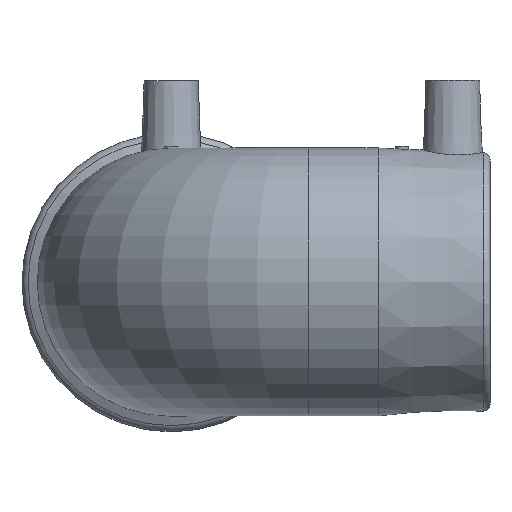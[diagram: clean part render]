
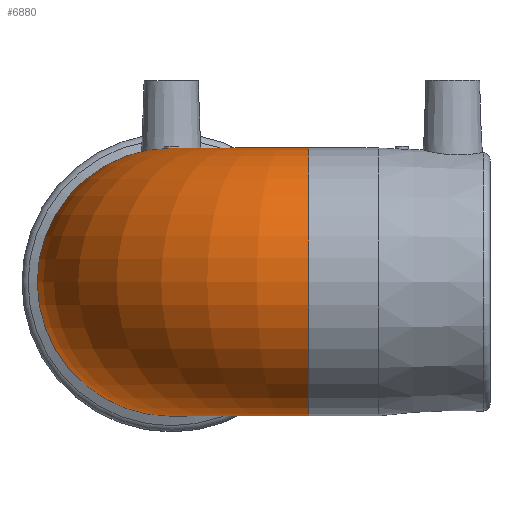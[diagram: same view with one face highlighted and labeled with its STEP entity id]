
A CAD part, top view. The second image highlights one B-rep face of the part: STEP entity #6880.
In plain terms, the highlighted toroidal (fillet/blend) face has major radius 40.5 mm and minor radius 39.5 mm.
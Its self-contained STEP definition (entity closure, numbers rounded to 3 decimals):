
#459=TOROIDAL_SURFACE('',#8689,40.5,39.5);
#815=CIRCLE('',#8678,39.5);
#818=CIRCLE('',#8683,39.5);
#1153=ORIENTED_EDGE('',*,*,#3365,.F.);
#1154=ORIENTED_EDGE('',*,*,#3368,.T.);
#3365=EDGE_CURVE('',#4478,#4478,#815,.F.);
#3368=EDGE_CURVE('',#4481,#4481,#818,.F.);
#4478=VERTEX_POINT('',#11258);
#4481=VERTEX_POINT('',#11266);
#5768=EDGE_LOOP('',(#1153));
#5769=EDGE_LOOP('',(#1154));
#6277=FACE_BOUND('',#5768,.T.);
#6278=FACE_BOUND('',#5769,.T.);
#6880=ADVANCED_FACE('',(#6277,#6278),#459,.T.);
#8678=AXIS2_PLACEMENT_3D('',#11257,#9468,#9469);
#8683=AXIS2_PLACEMENT_3D('',#11265,#9478,#9479);
#8689=AXIS2_PLACEMENT_3D('',#11298,#9490,#9491);
#9468=DIRECTION('',(-1.,0.,0.));
#9469=DIRECTION('',(0.,0.,-1.));
#9478=DIRECTION('',(0.,0.,-1.));
#9479=DIRECTION('',(1.,0.,0.));
#9490=DIRECTION('',(0.,1.,0.));
#9491=DIRECTION('',(0.,0.,1.));
#11257=CARTESIAN_POINT('',(40.5,0.,94.));
#11258=CARTESIAN_POINT('',(40.5,0.,54.5));
#11265=CARTESIAN_POINT('',(0.,0.,53.5));
#11266=CARTESIAN_POINT('',(39.5,0.,53.5));
#11298=CARTESIAN_POINT('',(40.5,0.,53.5));
